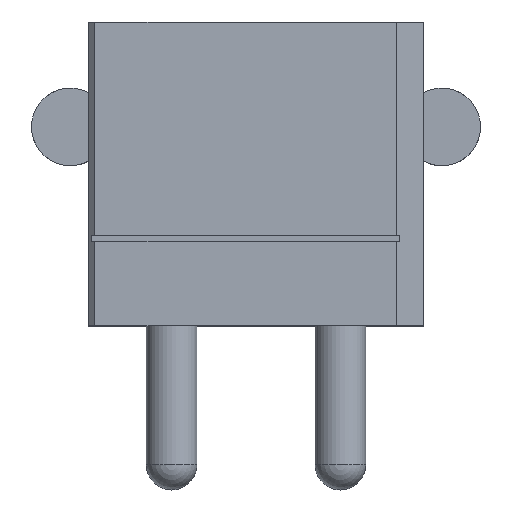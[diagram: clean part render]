
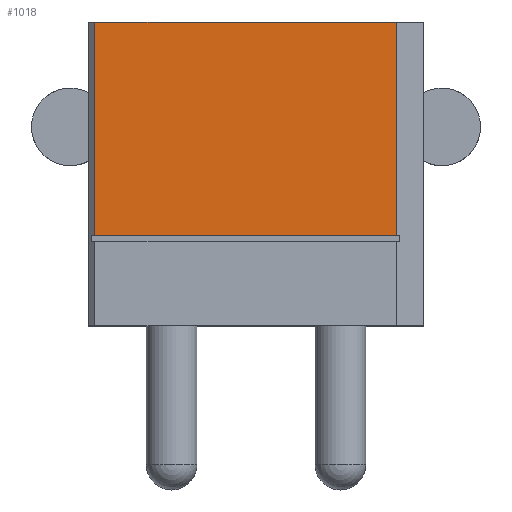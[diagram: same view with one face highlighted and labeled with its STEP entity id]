
A CAD part, top view. The second image highlights one B-rep face of the part: STEP entity #1018.
In plain terms, the highlighted planar face has unit normal (0, 0, 1).
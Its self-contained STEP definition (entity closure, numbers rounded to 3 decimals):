
#70 = PLANE('',#71);
#71 = AXIS2_PLACEMENT_3D('',#72,#73,#74);
#72 = CARTESIAN_POINT('',(-2.634,13.1,2.5));
#73 = DIRECTION('',(-0.,-1.,-0.));
#74 = DIRECTION('',(0.,0.,-1.));
#252 = VERTEX_POINT('',#253);
#253 = CARTESIAN_POINT('',(1.65,13.1,5.));
#267 = PLANE('',#268);
#268 = AXIS2_PLACEMENT_3D('',#269,#270,#271);
#269 = CARTESIAN_POINT('',(2.45,13.1,4.2));
#270 = DIRECTION('',(-0.707,-0.,-0.707));
#271 = DIRECTION('',(-0.707,0.,0.707));
#279 = EDGE_CURVE('',#252,#280,#282,.T.);
#280 = VERTEX_POINT('',#281);
#281 = CARTESIAN_POINT('',(-7.27,13.1,5.));
#282 = SURFACE_CURVE('',#283,(#287,#294),.PCURVE_S1.);
#283 = LINE('',#284,#285);
#284 = CARTESIAN_POINT('',(1.65,13.1,5.));
#285 = VECTOR('',#286,1.);
#286 = DIRECTION('',(-1.,0.,0.));
#287 = PCURVE('',#70,#288);
#288 = DEFINITIONAL_REPRESENTATION('',(#289),#293);
#289 = LINE('',#290,#291);
#290 = CARTESIAN_POINT('',(-2.5,4.284));
#291 = VECTOR('',#292,1.);
#292 = DIRECTION('',(0.,-1.));
#293 = ( GEOMETRIC_REPRESENTATION_CONTEXT(2) 
PARAMETRIC_REPRESENTATION_CONTEXT() REPRESENTATION_CONTEXT('2D SPACE',''
  ) );
#294 = PCURVE('',#295,#300);
#295 = PLANE('',#296);
#296 = AXIS2_PLACEMENT_3D('',#297,#298,#299);
#297 = CARTESIAN_POINT('',(1.65,13.1,5.));
#298 = DIRECTION('',(-0.,-0.,-1.));
#299 = DIRECTION('',(-1.,0.,0.));
#300 = DEFINITIONAL_REPRESENTATION('',(#301),#305);
#301 = LINE('',#302,#303);
#302 = CARTESIAN_POINT('',(0.,0.));
#303 = VECTOR('',#304,1.);
#304 = DIRECTION('',(1.,0.));
#305 = ( GEOMETRIC_REPRESENTATION_CONTEXT(2) 
PARAMETRIC_REPRESENTATION_CONTEXT() REPRESENTATION_CONTEXT('2D SPACE',''
  ) );
#323 = PLANE('',#324);
#324 = AXIS2_PLACEMENT_3D('',#325,#326,#327);
#325 = CARTESIAN_POINT('',(-7.27,13.1,5.));
#326 = DIRECTION('',(0.707,0.,-0.707));
#327 = DIRECTION('',(-0.707,0.,-0.707));
#761 = EDGE_CURVE('',#280,#762,#764,.T.);
#762 = VERTEX_POINT('',#763);
#763 = CARTESIAN_POINT('',(-7.27,6.78,5.));
#764 = SURFACE_CURVE('',#765,(#769,#776),.PCURVE_S1.);
#765 = LINE('',#766,#767);
#766 = CARTESIAN_POINT('',(-7.27,13.1,5.));
#767 = VECTOR('',#768,1.);
#768 = DIRECTION('',(0.,-1.,0.));
#769 = PCURVE('',#323,#770);
#770 = DEFINITIONAL_REPRESENTATION('',(#771),#775);
#771 = LINE('',#772,#773);
#772 = CARTESIAN_POINT('',(0.,0.));
#773 = VECTOR('',#774,1.);
#774 = DIRECTION('',(-0.,-1.));
#775 = ( GEOMETRIC_REPRESENTATION_CONTEXT(2) 
PARAMETRIC_REPRESENTATION_CONTEXT() REPRESENTATION_CONTEXT('2D SPACE',''
  ) );
#776 = PCURVE('',#295,#777);
#777 = DEFINITIONAL_REPRESENTATION('',(#778),#782);
#778 = LINE('',#779,#780);
#779 = CARTESIAN_POINT('',(8.92,0.));
#780 = VECTOR('',#781,1.);
#781 = DIRECTION('',(0.,-1.));
#782 = ( GEOMETRIC_REPRESENTATION_CONTEXT(2) 
PARAMETRIC_REPRESENTATION_CONTEXT() REPRESENTATION_CONTEXT('2D SPACE',''
  ) );
#799 = PLANE('',#800);
#800 = AXIS2_PLACEMENT_3D('',#801,#802,#803);
#801 = CARTESIAN_POINT('',(-7.46,6.78,4.91));
#802 = DIRECTION('',(0.,1.,0.));
#803 = DIRECTION('',(0.,0.,1.));
#1018 = ADVANCED_FACE('',(#1019),#295,.F.);
#1019 = FACE_BOUND('',#1020,.F.);
#1020 = EDGE_LOOP('',(#1021,#1022,#1045,#1064));
#1021 = ORIENTED_EDGE('',*,*,#279,.F.);
#1022 = ORIENTED_EDGE('',*,*,#1023,.T.);
#1023 = EDGE_CURVE('',#252,#1024,#1026,.T.);
#1024 = VERTEX_POINT('',#1025);
#1025 = CARTESIAN_POINT('',(1.65,6.78,5.));
#1026 = SURFACE_CURVE('',#1027,(#1031,#1038),.PCURVE_S1.);
#1027 = LINE('',#1028,#1029);
#1028 = CARTESIAN_POINT('',(1.65,13.1,5.));
#1029 = VECTOR('',#1030,1.);
#1030 = DIRECTION('',(0.,-1.,0.));
#1031 = PCURVE('',#295,#1032);
#1032 = DEFINITIONAL_REPRESENTATION('',(#1033),#1037);
#1033 = LINE('',#1034,#1035);
#1034 = CARTESIAN_POINT('',(0.,0.));
#1035 = VECTOR('',#1036,1.);
#1036 = DIRECTION('',(0.,-1.));
#1037 = ( GEOMETRIC_REPRESENTATION_CONTEXT(2) 
PARAMETRIC_REPRESENTATION_CONTEXT() REPRESENTATION_CONTEXT('2D SPACE',''
  ) );
#1038 = PCURVE('',#267,#1039);
#1039 = DEFINITIONAL_REPRESENTATION('',(#1040),#1044);
#1040 = LINE('',#1041,#1042);
#1041 = CARTESIAN_POINT('',(1.131,0.));
#1042 = VECTOR('',#1043,1.);
#1043 = DIRECTION('',(0.,-1.));
#1044 = ( GEOMETRIC_REPRESENTATION_CONTEXT(2) 
PARAMETRIC_REPRESENTATION_CONTEXT() REPRESENTATION_CONTEXT('2D SPACE',''
  ) );
#1045 = ORIENTED_EDGE('',*,*,#1046,.F.);
#1046 = EDGE_CURVE('',#762,#1024,#1047,.T.);
#1047 = SURFACE_CURVE('',#1048,(#1052,#1058),.PCURVE_S1.);
#1048 = LINE('',#1049,#1050);
#1049 = CARTESIAN_POINT('',(-2.905,6.78,5.));
#1050 = VECTOR('',#1051,1.);
#1051 = DIRECTION('',(1.,0.,0.));
#1052 = PCURVE('',#295,#1053);
#1053 = DEFINITIONAL_REPRESENTATION('',(#1054),#1057);
#1054 = B_SPLINE_CURVE_WITH_KNOTS('',1,(#1055,#1056),.UNSPECIFIED.,.F.,
  .F.,(2,2),(-4.365,4.555),.PIECEWISE_BEZIER_KNOTS.);
#1055 = CARTESIAN_POINT('',(8.92,-6.32));
#1056 = CARTESIAN_POINT('',(0.,-6.32));
#1057 = ( GEOMETRIC_REPRESENTATION_CONTEXT(2) 
PARAMETRIC_REPRESENTATION_CONTEXT() REPRESENTATION_CONTEXT('2D SPACE',''
  ) );
#1058 = PCURVE('',#799,#1059);
#1059 = DEFINITIONAL_REPRESENTATION('',(#1060),#1063);
#1060 = B_SPLINE_CURVE_WITH_KNOTS('',1,(#1061,#1062),.UNSPECIFIED.,.F.,
  .F.,(2,2),(-4.365,4.555),.PIECEWISE_BEZIER_KNOTS.);
#1061 = CARTESIAN_POINT('',(0.09,0.19));
#1062 = CARTESIAN_POINT('',(0.09,9.11));
#1063 = ( GEOMETRIC_REPRESENTATION_CONTEXT(2) 
PARAMETRIC_REPRESENTATION_CONTEXT() REPRESENTATION_CONTEXT('2D SPACE',''
  ) );
#1064 = ORIENTED_EDGE('',*,*,#761,.F.);
